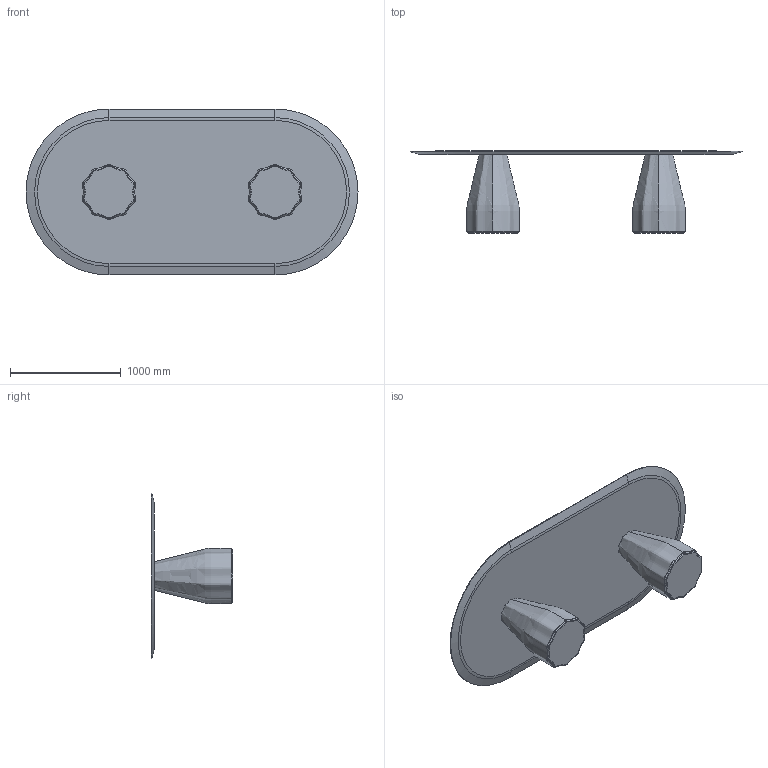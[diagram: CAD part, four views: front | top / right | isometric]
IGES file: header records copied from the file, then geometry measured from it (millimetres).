
Start section: SolidWorks IGES file using analytic representation for surfaces
Global section: file name: Z:\01-VICCARBE\VICCARBE TECNICO 2018\6.-Studio VCCB\Otros\Burin\Modelado\WEB\Nueva carpeta\BurinH74-300x150.IGS; native system: SolidWorks 2013; preprocessor: SolidWorks 2013; author: Usuario; date: 190219.135405; units: millimetre
Bounding box: 3000 x 740 x 1500 mm (x, y, z)
Volume: 298567463.7 mm3; surface area: 10412186.5 mm2
Topology: 3 solids, 3 shells, 262 faces, 680 edges, 424 vertices
Faces by surface type: bspline 244, plane 10, revolution 8
